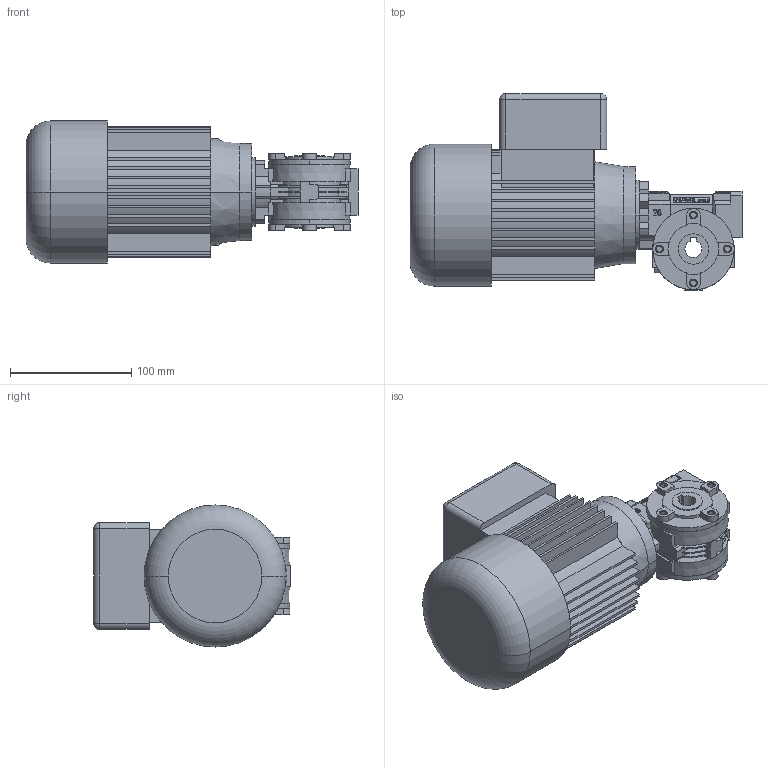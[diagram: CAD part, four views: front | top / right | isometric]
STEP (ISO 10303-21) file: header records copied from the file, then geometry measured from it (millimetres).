
FILE_DESCRIPTION (( 'STEP AP214' ), '1' );
FILE_NAME ('T56B14+RS28.STEP', '2020-03-31T16:05:31', ( '' ), ( '' ), 'SwSTEP 2.0', 'SolidWorks 2018', '' );
FILE_SCHEMA (( 'AUTOMOTIVE_DESIGN' ));
Length unit declared in the file: mil
Products named in the file (1): T56B14+RS28
Bounding box: 273.5 x 162 x 117 mm (x, y, z)
Volume: 2108643.3 mm3; surface area: 203946.4 mm2
Topology: 1 solids, 4 shells, 822 faces, 2184 edges, 1437 vertices
Faces by surface type: plane 571, cylinder 203, cone 24, torus 20, sphere 4
Entity records: 28922 total; most frequent: CARTESIAN_POINT 4736, ORIENTED_EDGE 4360, DIRECTION 4340, EDGE_CURVE 2180, VECTOR 1610, LINE 1610, VERTEX_POINT 1437, AXIS2_PLACEMENT_3D 1365
